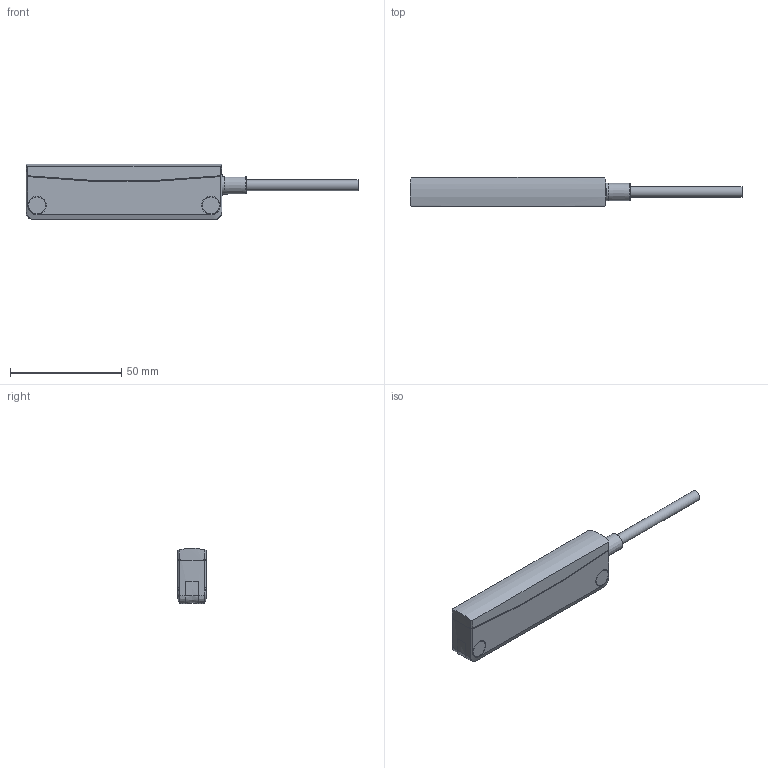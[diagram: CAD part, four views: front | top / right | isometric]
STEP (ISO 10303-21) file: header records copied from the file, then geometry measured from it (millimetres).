
FILE_DESCRIPTION(/* description */ ('Katalogmodell Elobau'),/* implementation_level */ '2;1');
FILE_NAME(/* name */ 'Katalogdaten.stp',/* time_stamp */ '2014-12-08T12:31:02+01:00',/* author */ ('Elobau GmbH & Co. KG'),/* organization */ ('Elobau GmbH & Co. KG'),/* preprocessor_version */ 'ST-DEVELOPER v15',/* originating_system */ 'SIEMENS PLM Software NX 8.5',/* authorisation */ '');
FILE_SCHEMA (('AUTOMOTIVE_DESIGN { 1 0 10303 214 3 1 1 1 }'));
Length unit declared in the file: millimetre
Products named in the file (1): 165MSK00.0A_A
Bounding box: 148.96 x 13 x 24.93 mm (x, y, z)
Volume: 28228.8 mm3; surface area: 9021.4 mm2
Topology: 5 solids, 5 shells, 84 faces, 214 edges, 150 vertices
Faces by surface type: bspline 28, plane 26, cylinder 24, cone 5, torus 1
Full cylindrical faces by diameter (mm): 4.5 x2, 4.8 x1, 7.6 x4, 7.9 x1, 8.2 x4
Entity records: 3978 total; most frequent: CARTESIAN_POINT 2098, ORIENTED_EDGE 382, DIRECTION 232, EDGE_CURVE 191, VERTEX_POINT 145, B_SPLINE_CURVE_WITH_KNOTS 128, EDGE_LOOP 116, AXIS2_PLACEMENT_3D 112
